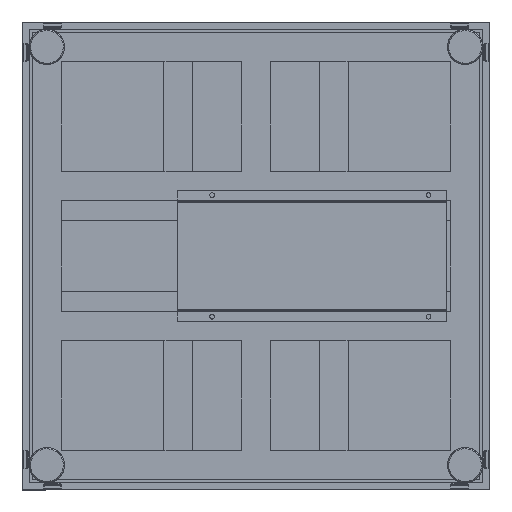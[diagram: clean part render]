
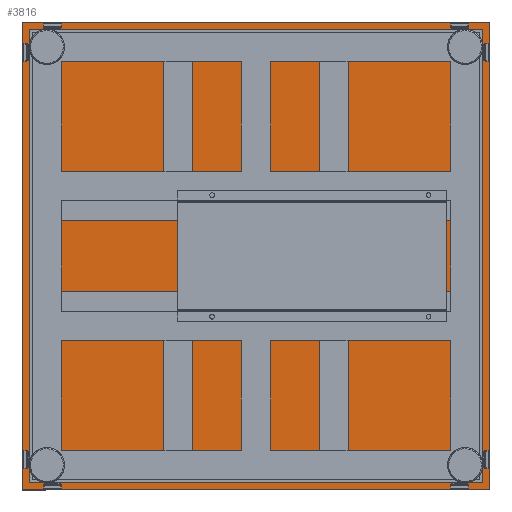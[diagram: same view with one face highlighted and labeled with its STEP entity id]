
A CAD part, front view. The second image highlights one B-rep face of the part: STEP entity #3816.
In plain terms, the highlighted planar face has unit normal (0, -1, 0).
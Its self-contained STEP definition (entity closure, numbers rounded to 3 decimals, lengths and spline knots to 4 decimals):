
#3816=ADVANCED_FACE('944:31',(#6066),#6067,.F.);
#6066=FACE_OUTER_BOUND('',#12045,.T.);
#6067=PLANE('',#12046);
#12045=EDGE_LOOP('',(#15811,#15812,#15813,#15814));
#12046=AXIS2_PLACEMENT_3D('',#15815,#15816,#15817);
#15811=ORIENTED_EDGE('',*,*,#23726,.T.);
#15812=ORIENTED_EDGE('',*,*,#23727,.T.);
#15813=ORIENTED_EDGE('',*,*,#23728,.T.);
#15814=ORIENTED_EDGE('',*,*,#23729,.T.);
#15815=CARTESIAN_POINT('',(0.,-0.1037,0.));
#15816=DIRECTION('',(0.0,1.0,0.0));
#15817=DIRECTION('',(0.0,0.0,1.0));
#23726=EDGE_CURVE('944:94',#28246,#28247,#28248,.T.);
#23727=EDGE_CURVE('944:97',#28247,#28249,#28250,.T.);
#23728=EDGE_CURVE('944:100',#28249,#28251,#28252,.T.);
#23729=EDGE_CURVE('944:103',#28251,#28246,#28253,.T.);
#28246=VERTEX_POINT('',#34251);
#28247=VERTEX_POINT('',#34252);
#28248=LINE('',#34253,#34254);
#28249=VERTEX_POINT('',#34255);
#28250=LINE('',#34256,#34257);
#28251=VERTEX_POINT('',#34258);
#28252=LINE('',#34259,#34260);
#28253=LINE('',#34261,#34262);
#34251=CARTESIAN_POINT('',(-0.3985,-0.1037,-0.3985));
#34252=CARTESIAN_POINT('',(0.3985,-0.1037,-0.3985));
#34253=CARTESIAN_POINT('',(0.,-0.1037,-0.3985));
#34254=VECTOR('',#38132,1.0);
#34255=CARTESIAN_POINT('',(0.3985,-0.1037,0.3985));
#34256=CARTESIAN_POINT('',(0.3985,-0.1037,0.));
#34257=VECTOR('',#38133,1.0);
#34258=CARTESIAN_POINT('',(-0.3985,-0.1037,0.3985));
#34259=CARTESIAN_POINT('',(0.,-0.1037,0.3985));
#34260=VECTOR('',#38134,1.0);
#34261=CARTESIAN_POINT('',(-0.3985,-0.1037,0.));
#34262=VECTOR('',#38135,1.0);
#38132=DIRECTION('',(1.0,0.0,0.0));
#38133=DIRECTION('',(0.,0.0,1.0));
#38134=DIRECTION('',(-1.0,0.0,0.));
#38135=DIRECTION('',(0.,0.0,-1.0));
